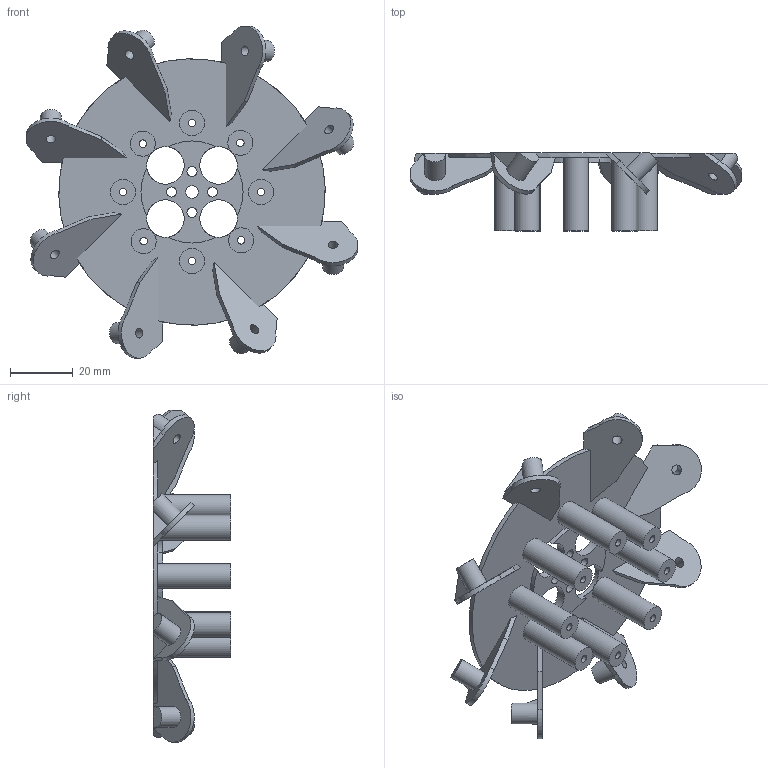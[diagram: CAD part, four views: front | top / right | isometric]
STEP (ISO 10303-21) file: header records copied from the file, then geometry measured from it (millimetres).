
FILE_DESCRIPTION(/* description */ (''),/* implementation_level */ '2;1');
FILE_NAME(/* name */ 'C:/Users/priba/Downloads/MecanumWheelSideOpp.step',/* time_stamp */ '2022-02-06T21:25:28+01:00',/* author */ (''),/* organization */ (''),/* preprocessor_version */ 'ST-DEVELOPER v18.1',/* originating_system */ 'Autodesk Translation Framework v10.13.0.1454',/* authorisation */ '');
FILE_SCHEMA (('AUTOMOTIVE_DESIGN { 1 0 10303 214 3 1 1 }'));
Length unit declared in the file: millimetre
Products named in the file (1): MecanumWheelSideOpp
Bounding box: 105.94 x 24.8 x 105.94 mm (x, y, z)
Volume: 21165.3 mm3; surface area: 26812 mm2
Topology: 1 solids, 1 shells, 208 faces, 547 edges, 362 vertices
Faces by surface type: plane 147, cylinder 61
Full cylindrical faces by diameter (mm): 2.4 x8, 3.2 x12, 4 x1, 8 x8, 12 x4
Entity records: 6519 total; most frequent: DIRECTION 1127, CARTESIAN_POINT 1118, ORIENTED_EDGE 1094, EDGE_CURVE 547, LINE 385, VECTOR 385, AXIS2_PLACEMENT_3D 371, VERTEX_POINT 362
